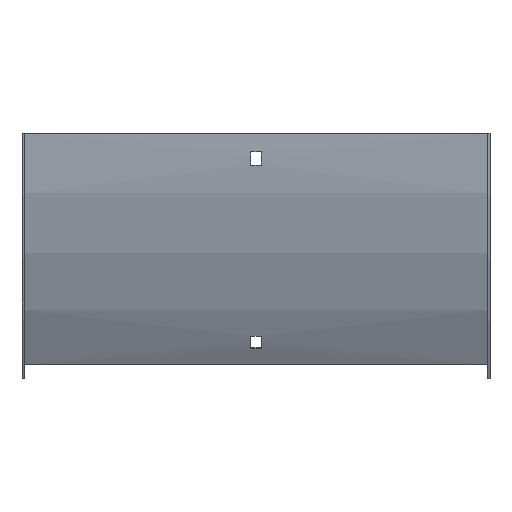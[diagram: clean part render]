
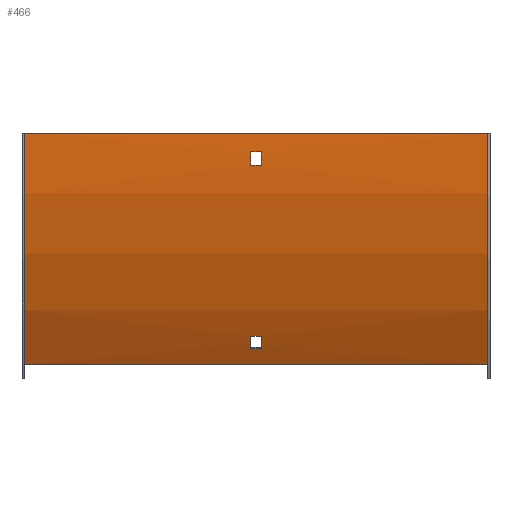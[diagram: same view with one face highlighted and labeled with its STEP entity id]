
A CAD part, front view. The second image highlights one B-rep face of the part: STEP entity #466.
In plain terms, the highlighted cylindrical face has radius 300 mm (diameter 600 mm), a partial arc.
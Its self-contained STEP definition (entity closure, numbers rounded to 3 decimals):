
#5 = EDGE_CURVE ( 'NONE', #234, #488, #232, .T. ) ;
#12 = AXIS2_PLACEMENT_3D ( 'NONE', #317, #518, #464 ) ;
#26 = DIRECTION ( 'NONE',  ( 0., 0., -1. ) ) ;
#37 = DIRECTION ( 'NONE',  ( 0., 0., 1. ) ) ;
#40 = VERTEX_POINT ( 'NONE', #196 ) ;
#48 = VERTEX_POINT ( 'NONE', #571 ) ;
#59 = ORIENTED_EDGE ( 'NONE', *, *, #521, .T. ) ;
#62 = EDGE_CURVE ( 'NONE', #48, #230, #276, .T. ) ;
#63 = AXIS2_PLACEMENT_3D ( 'NONE', #595, #342, #37 ) ;
#73 = VERTEX_POINT ( 'NONE', #329 ) ;
#75 = DIRECTION ( 'NONE',  ( 1., 0., 0. ) ) ;
#100 = AXIS2_PLACEMENT_3D ( 'NONE', #434, #239, #243 ) ;
#109 = FACE_BOUND ( 'NONE', #607, .T. ) ;
#112 = LINE ( 'NONE', #489, #364 ) ;
#115 = ORIENTED_EDGE ( 'NONE', *, *, #412, .T. ) ;
#117 = CARTESIAN_POINT ( 'NONE',  ( -150., -1.5, 0. ) ) ;
#120 = ORIENTED_EDGE ( 'NONE', *, *, #512, .T. ) ;
#122 = CARTESIAN_POINT ( 'NONE',  ( 150., 38.692, -150. ) ) ;
#135 = EDGE_CURVE ( 'NONE', #305, #73, #462, .T. ) ;
#136 = VERTEX_POINT ( 'NONE', #175 ) ;
#138 = AXIS2_PLACEMENT_3D ( 'NONE', #592, #587, #352 ) ;
#143 = ORIENTED_EDGE ( 'NONE', *, *, #526, .T. ) ;
#150 = DIRECTION ( 'NONE',  ( -1., 0., 0. ) ) ;
#158 = ORIENTED_EDGE ( 'NONE', *, *, #252, .F. ) ;
#174 = ORIENTED_EDGE ( 'NONE', *, *, #215, .F. ) ;
#175 = CARTESIAN_POINT ( 'NONE',  ( -3.25, -1.26, -12. ) ) ;
#177 = EDGE_CURVE ( 'NONE', #375, #488, #285, .T. ) ;
#179 = CIRCLE ( 'NONE', #517, 300. ) ;
#191 = LINE ( 'NONE', #570, #288 ) ;
#193 = CARTESIAN_POINT ( 'NONE',  ( 150., 38.692, -150. ) ) ;
#196 = CARTESIAN_POINT ( 'NONE',  ( 3.25, -1.26, -12. ) ) ;
#203 = FACE_OUTER_BOUND ( 'NONE', #552, .T. ) ;
#208 = CARTESIAN_POINT ( 'NONE',  ( -3.25, 32.9, -139.488 ) ) ;
#209 = DIRECTION ( 'NONE',  ( -1., 0., 0. ) ) ;
#215 = EDGE_CURVE ( 'NONE', #40, #136, #112, .T. ) ;
#217 = CIRCLE ( 'NONE', #100, 300. ) ;
#220 = DIRECTION ( 'NONE',  ( 1., 0., 0. ) ) ;
#228 = EDGE_LOOP ( 'NONE', ( #361, #120, #143, #115 ) ) ;
#229 = AXIS2_PLACEMENT_3D ( 'NONE', #596, #75, #534 ) ;
#230 = VERTEX_POINT ( 'NONE', #208 ) ;
#232 = LINE ( 'NONE', #569, #324 ) ;
#234 = VERTEX_POINT ( 'NONE', #351 ) ;
#239 = DIRECTION ( 'NONE',  ( -1., 0., 0. ) ) ;
#243 = DIRECTION ( 'NONE',  ( 0., 0., -1. ) ) ;
#252 = EDGE_CURVE ( 'NONE', #136, #305, #327, .T. ) ;
#276 = LINE ( 'NONE', #567, #584 ) ;
#285 = CIRCLE ( 'NONE', #12, 300. ) ;
#288 = VECTOR ( 'NONE', #527, 1000. ) ;
#301 = CARTESIAN_POINT ( 'NONE',  ( -3.25, 28.83, -131.446 ) ) ;
#305 = VERTEX_POINT ( 'NONE', #509 ) ;
#317 = CARTESIAN_POINT ( 'NONE',  ( -150., 298.5, 0. ) ) ;
#321 = CARTESIAN_POINT ( 'NONE',  ( 151.5, -0.764, -21. ) ) ;
#324 = VECTOR ( 'NONE', #150, 1000. ) ;
#327 = CIRCLE ( 'NONE', #63, 300. ) ;
#329 = CARTESIAN_POINT ( 'NONE',  ( 3.25, -0.764, -21. ) ) ;
#334 = CIRCLE ( 'NONE', #229, 300. ) ;
#336 = DIRECTION ( 'NONE',  ( 0., 0., 1. ) ) ;
#341 = VERTEX_POINT ( 'NONE', #301 ) ;
#342 = DIRECTION ( 'NONE',  ( 1., 0., 0. ) ) ;
#343 = CARTESIAN_POINT ( 'NONE',  ( 3.25, 298.5, 0. ) ) ;
#347 = ORIENTED_EDGE ( 'NONE', *, *, #177, .F. ) ;
#351 = CARTESIAN_POINT ( 'NONE',  ( 150., -1.5, 0. ) ) ;
#352 = DIRECTION ( 'NONE',  ( 0., 0., 1. ) ) ;
#361 = ORIENTED_EDGE ( 'NONE', *, *, #62, .T. ) ;
#364 = VECTOR ( 'NONE', #591, 1000. ) ;
#369 = VECTOR ( 'NONE', #404, 1000. ) ;
#375 = VERTEX_POINT ( 'NONE', #505 ) ;
#384 = DIRECTION ( 'NONE',  ( -1., 0., 0. ) ) ;
#404 = DIRECTION ( 'NONE',  ( -1., 0., 0. ) ) ;
#412 = EDGE_CURVE ( 'NONE', #497, #48, #334, .T. ) ;
#416 = ORIENTED_EDGE ( 'NONE', *, *, #135, .F. ) ;
#427 = CARTESIAN_POINT ( 'NONE',  ( 150., 298.5, 0. ) ) ;
#428 = ORIENTED_EDGE ( 'NONE', *, *, #469, .F. ) ;
#434 = CARTESIAN_POINT ( 'NONE',  ( -3.25, 298.5, 0. ) ) ;
#440 = ORIENTED_EDGE ( 'NONE', *, *, #459, .F. ) ;
#442 = CYLINDRICAL_SURFACE ( 'NONE', #138, 300. ) ;
#459 = EDGE_CURVE ( 'NONE', #73, #40, #472, .T. ) ;
#462 = LINE ( 'NONE', #321, #483 ) ;
#464 = DIRECTION ( 'NONE',  ( 0., 0., 1. ) ) ;
#466 = ADVANCED_FACE ( 'NONE', ( #109, #203, #490 ), #442, .T. ) ;
#469 = EDGE_CURVE ( 'NONE', #520, #375, #545, .T. ) ;
#472 = CIRCLE ( 'NONE', #578, 300. ) ;
#483 = VECTOR ( 'NONE', #220, 1000. ) ;
#484 = ORIENTED_EDGE ( 'NONE', *, *, #5, .T. ) ;
#488 = VERTEX_POINT ( 'NONE', #117 ) ;
#489 = CARTESIAN_POINT ( 'NONE',  ( 151.5, -1.26, -12. ) ) ;
#490 = FACE_BOUND ( 'NONE', #228, .T. ) ;
#497 = VERTEX_POINT ( 'NONE', #504 ) ;
#504 = CARTESIAN_POINT ( 'NONE',  ( 3.25, 28.83, -131.446 ) ) ;
#505 = CARTESIAN_POINT ( 'NONE',  ( -150., 38.692, -150. ) ) ;
#509 = CARTESIAN_POINT ( 'NONE',  ( -3.25, -0.764, -21. ) ) ;
#512 = EDGE_CURVE ( 'NONE', #230, #341, #217, .T. ) ;
#517 = AXIS2_PLACEMENT_3D ( 'NONE', #427, #579, #336 ) ;
#518 = DIRECTION ( 'NONE',  ( -1., 0., 0. ) ) ;
#520 = VERTEX_POINT ( 'NONE', #193 ) ;
#521 = EDGE_CURVE ( 'NONE', #520, #234, #179, .T. ) ;
#526 = EDGE_CURVE ( 'NONE', #341, #497, #191, .T. ) ;
#527 = DIRECTION ( 'NONE',  ( 1., 0., 0. ) ) ;
#534 = DIRECTION ( 'NONE',  ( 0., 0., 1. ) ) ;
#545 = LINE ( 'NONE', #122, #369 ) ;
#552 = EDGE_LOOP ( 'NONE', ( #347, #428, #59, #484 ) ) ;
#567 = CARTESIAN_POINT ( 'NONE',  ( 151.5, 32.9, -139.488 ) ) ;
#569 = CARTESIAN_POINT ( 'NONE',  ( 150., -1.5, 0. ) ) ;
#570 = CARTESIAN_POINT ( 'NONE',  ( 151.5, 28.83, -131.446 ) ) ;
#571 = CARTESIAN_POINT ( 'NONE',  ( 3.25, 32.9, -139.488 ) ) ;
#578 = AXIS2_PLACEMENT_3D ( 'NONE', #343, #209, #26 ) ;
#579 = DIRECTION ( 'NONE',  ( -1., 0., 0. ) ) ;
#584 = VECTOR ( 'NONE', #384, 1000. ) ;
#587 = DIRECTION ( 'NONE',  ( -1., 0., 0. ) ) ;
#591 = DIRECTION ( 'NONE',  ( -1., 0., 0. ) ) ;
#592 = CARTESIAN_POINT ( 'NONE',  ( 151.5, 298.5, 0. ) ) ;
#595 = CARTESIAN_POINT ( 'NONE',  ( -3.25, 298.5, 0. ) ) ;
#596 = CARTESIAN_POINT ( 'NONE',  ( 3.25, 298.5, 0. ) ) ;
#607 = EDGE_LOOP ( 'NONE', ( #158, #174, #440, #416 ) ) ;
